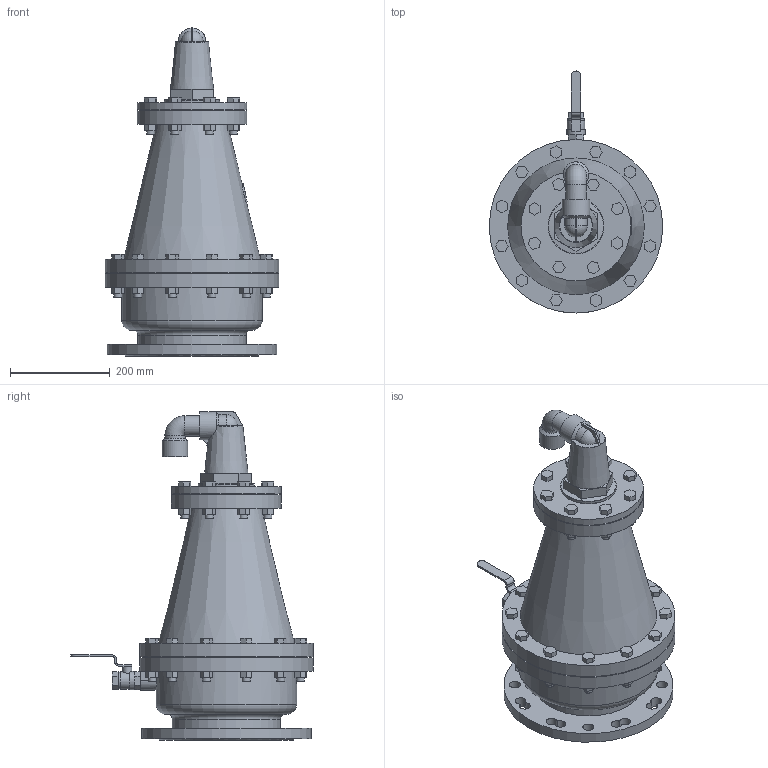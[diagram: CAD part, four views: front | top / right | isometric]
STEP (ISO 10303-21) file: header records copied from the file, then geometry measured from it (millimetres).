
FILE_DESCRIPTION(('STEP AP203'), '1');
FILE_NAME('A10FK_Dn200_左泱眄', '', ('UNSPECIFIED'), ('UNSPECIFIED'), 'ASCON STEP Converter 1.6', 'ASCON Math Kernel', '');
FILE_SCHEMA(('CONFIG_CONTROL_DESIGN'));
Length unit declared in the file: millimetre
Bounding box: 348 x 485.67 x 658 mm (x, y, z)
Volume: 10010591.6 mm3; surface area: 1200955.9 mm2
Topology: 1 solids, 2 shells, 623 faces, 1599 edges, 1047 vertices
Faces by surface type: plane 481, cylinder 102, cone 33, torus 5, sphere 2
Full cylindrical faces by diameter (mm): 16 x20, 18 x1, 18.5 x1, 22 x4, 33 x1, 35 x1, 37 x1, 41 x2, 43 x1, 51 x1, 56 x1, 86 x1, 110 x1, 112 x1, 200 x1, 217 x1, 220 x2, 257.375 x1, 282 x1, 340 x1, 348 x2
Entity records: 25436 total; most frequent: CARTESIAN_POINT 5414, ORIENTED_EDGE 3028, DIRECTION 2984, EDGE_CURVE 1514, LINE 1152, VECTOR 1152, VERTEX_POINT 1046, AXIS2_PLACEMENT_3D 916
